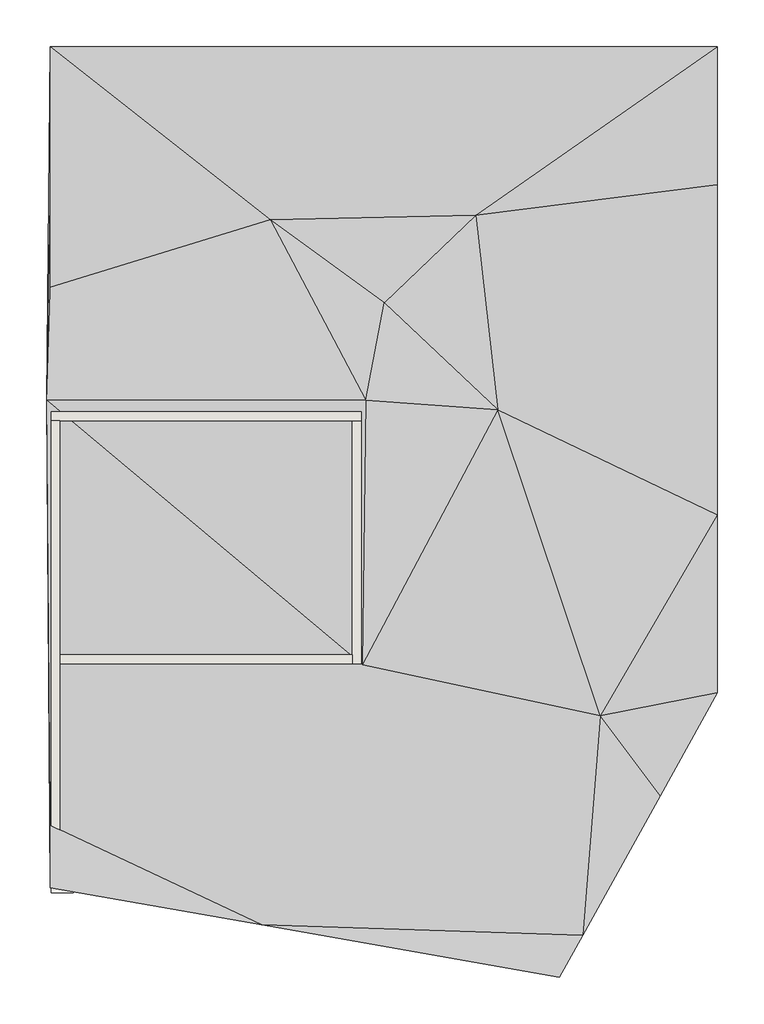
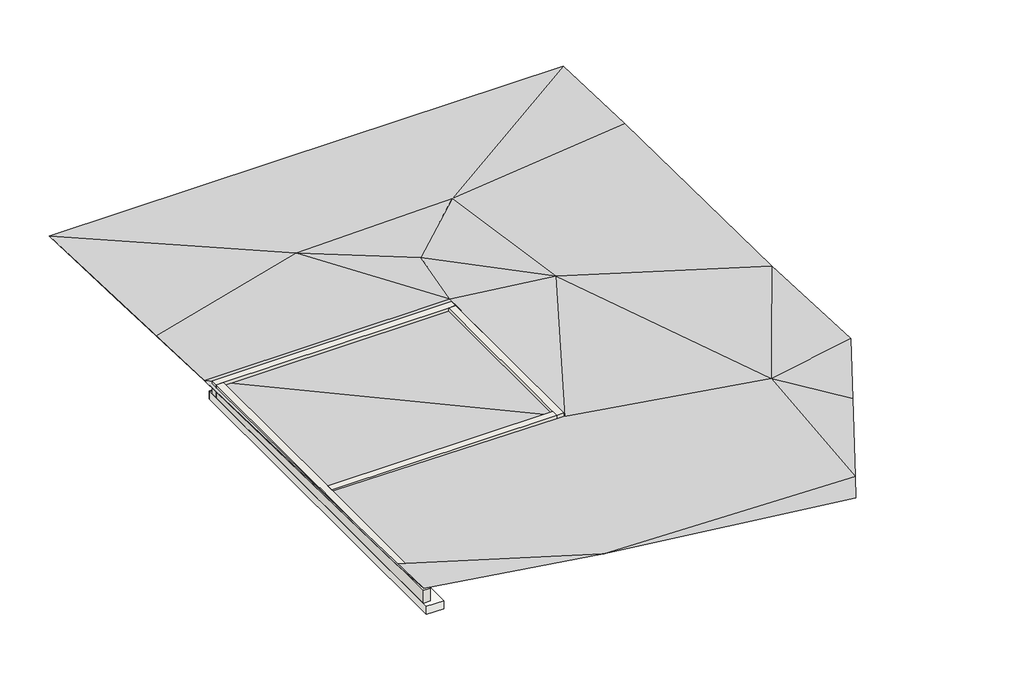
# One storey: 4 footings, 4 walls, 1 proxy.
"""IFC4 building model written with IfcOpenShell, lengths in millimetres."""

from ifc_helpers import new_model, si_unit, frame, origin, place, context, project, spatial, polyline, outline, extrude, faceted_brep, triangles, element, save

model = new_model("IFC4")

# Units and contexts
model_context = context("Model", 3, world=origin())
ifc_project = project(units=[si_unit("LENGTHUNIT", "METRE", prefix="MILLI")], contexts=[model_context])

# Site, building, storey
site = spatial("IfcSite", under=ifc_project)
building = spatial("IfcBuilding", under=site)
storey = spatial("IfcBuildingStorey", under=building, Name="Soubassement", Elevation=-650.0)

# Proxy
placement = place(None, origin())
element("IfcBuildingElementProxy", 1, Name="Building Element Proxy", at=placement, inside=storey, context=model_context, shape_type="Tessellation", body=[
    triangles([(-3585.0276855, 36847.3369263, -500.0000038), (5035.1258011, 36847.3369263, -500.0000038), (11377.8520203, 36847.3369263, -500.0000038), (-3585.0276855, 33552.8240662, -400.0000031), (1357.9688553, 32964.4785828, -400.0000031), (5966.6718475, 33062.5377136, -400.0000031), (11377.8520203, 33748.9400024, -400.0000031), (-3585.0276855, 31444.5876343, -300.0000023), (3907.464109, 31101.3876526, -300.0000023), (6456.9593628, 28698.978479, -300.0000023), (11377.8520203, 26345.5965454, -300.0000023), (-3665.0277443, 28906.9332275, -100.0000008), (3494.9724266, 28906.9332275, -100.0000008), (3414.9723679, 22976.9323975, -100.0000008), (8761.3111496, 21834.9509399, -100.0000008), (10099.0533325, 20040.3232727, -100.0000008), (-3585.0276855, 19380.7972504, 0.0), (1163.8612267, 17139.5759125, 0.0), (8365.2027695, 16912.3735016, 0.0), (-3585.0276855, 17976.9329407, 100.0000008), (7838.7424622, 15962.614032, 100.0000008), (11377.8520203, 22347.338269, -100.0000008)], [[20, 17, 12], [17, 20, 18], [17, 14, 12], [14, 18, 19], [9, 13, 10], [14, 17, 18], [12, 14, 13], [12, 4, 1], [4, 12, 8], [1, 4, 5], [12, 5, 8], [12, 13, 5], [1, 5, 2], [8, 5, 4], [13, 9, 5], [6, 5, 9], [13, 14, 10], [19, 15, 14], [11, 7, 10], [15, 16, 22], [16, 15, 19], [10, 15, 11], [15, 22, 11], [15, 10, 14], [5, 6, 2], [9, 10, 6], [6, 10, 7], [2, 6, 3], [21, 19, 18], [7, 3, 6]], closed=False),
])

# Footings
element("IfcFooting", 2, ObjectType="fondation excentrée 50 x 25", at=placement, inside=storey, context=model_context, shape_type="Brep", body=[
    faceted_brep([(-3065.0276062, 17866.9326555, -650.0), (-3065.0276062, 17866.9326555, -400.0), (-3565.0276062, 17866.9326555, -400.0), (-3565.0276062, 17866.9326555, -650.0), (-3065.0276062, 22846.9326555, -400.0), (-3065.0276062, 23346.9326555, -400.0), (-3065.0276062, 28306.9326555, -400.0), (-3565.0276062, 28806.9326555, -400.0), (-3065.0276062, 22846.9326555, -650.0), (-3065.0276062, 23346.9326555, -650.0), (-3065.0276062, 28306.9326555, -650.0), (-3565.0276062, 28806.9326555, -650.0)], [[[0, 1, 2, 3]], [[1, 4, 5, 6, 7, 2]], [[1, 0, 8, 9, 10, 6, 5, 4]], [[0, 3, 11, 10, 9, 8]], [[3, 2, 7, 11]], [[7, 6, 10, 11]]]),
])
element("IfcFooting", 3, ObjectType="Fondation 50 x 25", at=placement, inside=storey, context=model_context, shape_type="SweptSolid", body=[
    extrude(outline(polyline([(3044.9723938, 28306.9326555), (3544.9723938, 28806.9326555), (3544.9723938, 22846.9326555), (3044.9723938, 23346.9326555), (3044.9723938, 28306.9326555)])), frame((0.0, 0.0, -650.0), z_axis=(0.0, 0.0, 1.0), x_axis=(1.0, 0.0, 0.0)), (0.0, 0.0, 1.0), 250.0),
])
element("IfcFooting", 4, ObjectType="Fondation 50 x 25", at=placement, inside=storey, context=model_context, shape_type="SweptSolid", body=[
    extrude(outline(polyline([(-3065.0276062, 28306.9326555), (-3565.0276062, 28806.9326555), (3544.9723938, 28806.9326555), (3044.9723938, 28306.9326555), (-3065.0276062, 28306.9326555)])), frame((0.0, 0.0, -650.0), z_axis=(0.0, 0.0, 1.0), x_axis=(1.0, 0.0, 0.0)), (0.0, 0.0, 1.0), 250.0),
])
element("IfcFooting", 5, ObjectType="Fondation 50 x 25", at=placement, inside=storey, context=model_context, shape_type="SweptSolid", body=[
    extrude(outline(polyline([(3044.9723938, 23346.9326555), (3544.9723938, 22846.9326555), (-3065.0276062, 22846.9326555), (-3065.0276062, 23346.9326555), (3044.9723938, 23346.9326555)])), frame((0.0, 0.0, -650.0), z_axis=(0.0, 0.0, 1.0), x_axis=(1.0, 0.0, 0.0)), (0.0, 0.0, 1.0), 250.0),
])

# Walls
element("IfcWall", 6, ObjectType="Soubassement BBM plein 20 cm", at=placement, inside=storey, context=model_context, shape_type="Brep", body=[
    faceted_brep([(-3565.0276062, 28456.9326555, -400.0), (-3365.0276062, 28456.9326555, -400.0), (3194.9723938, 28456.9326555, -400.0), (3394.9723938, 28456.9326555, -400.0), (3394.9723938, 28456.9326555, 0.0), (3194.9723938, 28456.9326555, 0.0), (-3365.0276062, 28456.9326555, 0.0), (-3565.0276062, 28456.9326555, 0.0), (-3565.0276062, 28656.9326555, -400.0), (-3565.0276062, 28656.9326555, 0.0), (3394.9723938, 28656.9326555, 0.0), (3394.9723938, 28656.9326555, -400.0)], [[[0, 1, 2, 3, 4, 5, 6, 7]], [[8, 9, 10, 11]], [[3, 2, 1, 0, 8, 11]], [[7, 6, 5, 4, 10, 9]], [[4, 3, 11, 10]], [[0, 7, 9, 8]]]),
])
element("IfcWall", 7, ObjectType="Soubassement BBM plein 20 cm", at=placement, inside=storey, context=model_context, shape_type="Brep", body=[
    faceted_brep([(3194.9723938, 28456.9326555, -400.0), (3194.9723938, 23196.9326555, -400.0), (3194.9723938, 22996.9326555, -400.0), (3194.9723938, 22996.9326555, 0.0), (3194.9723938, 23196.9326555, 0.0), (3194.9723938, 28456.9326555, 0.0), (3394.9723938, 28456.9326555, -400.0), (3394.9723938, 28456.9326555, 0.0), (3394.9723938, 22996.9326555, 0.0), (3394.9723938, 22996.9326555, -400.0)], [[[0, 1, 2, 3, 4, 5]], [[6, 7, 8, 9]], [[2, 1, 0, 6, 9]], [[5, 4, 3, 8, 7]], [[3, 2, 9, 8]], [[0, 5, 7, 6]]]),
])
element("IfcWall", 8, ObjectType="Soubassement BBM plein 20 cm", at=placement, inside=storey, context=model_context, shape_type="SweptSolid", body=[
    extrude(outline(polyline([(-3365.0276062, 23196.9326555), (3194.9723938, 23196.9326555), (3194.9723938, 22996.9326555), (-3365.0276062, 22996.9326555), (-3365.0276062, 23196.9326555)])), frame((0.0, 0.0, -400.0), z_axis=(0.0, 0.0, 1.0), x_axis=(1.0, 0.0, 0.0)), (0.0, 0.0, 1.0), 400.0),
])
element("IfcWall", 9, ObjectType="Soubassement BBM plein 20 cm", at=placement, inside=storey, context=model_context, shape_type="Brep", body=[
    faceted_brep([(-3565.0276062, 28456.9326555, -400.0), (-3565.0276062, 18016.9326555, -400.0), (-3565.0276062, 18016.9326555, 0.0), (-3565.0276062, 28456.9326555, 0.0), (-3365.0276062, 28456.9326555, -400.0), (-3365.0276062, 28456.9326555, 0.0), (-3365.0276062, 23196.9326555, 0.0), (-3365.0276062, 22996.9326555, 0.0), (-3365.0276062, 18016.9326555, 0.0), (-3365.0276062, 18016.9326555, -400.0), (-3365.0276062, 22996.9326555, -400.0), (-3365.0276062, 23196.9326555, -400.0)], [[[0, 1, 2, 3]], [[4, 5, 6, 7, 8, 9, 10, 11]], [[1, 0, 4, 11, 10, 9]], [[2, 1, 9, 8]], [[3, 2, 8, 7, 6, 5]], [[0, 3, 5, 4]]]),
])

save(model, "model.ifc")
